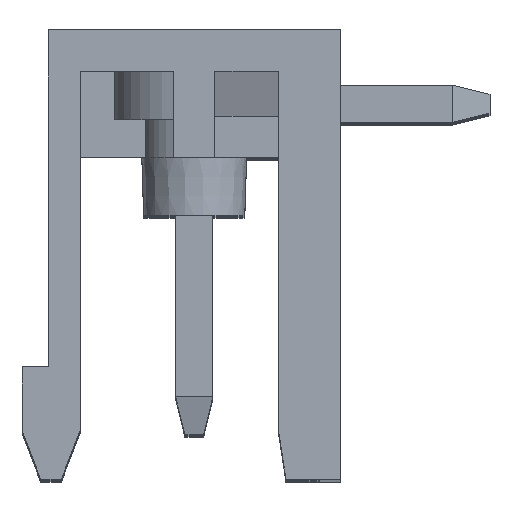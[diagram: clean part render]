
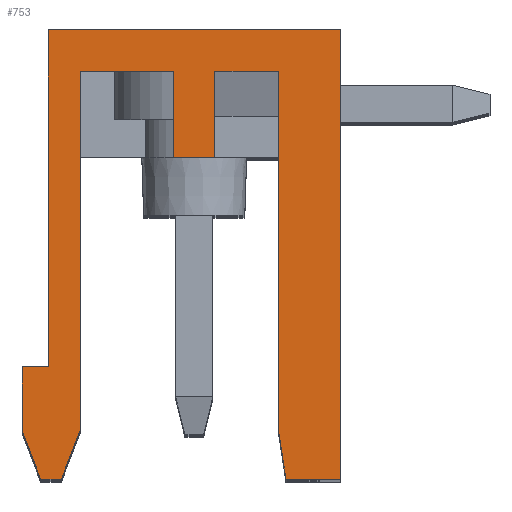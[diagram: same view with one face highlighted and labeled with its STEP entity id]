
A CAD part, top view. The second image highlights one B-rep face of the part: STEP entity #753.
In plain terms, the highlighted planar face has unit normal (0, 0, 1).
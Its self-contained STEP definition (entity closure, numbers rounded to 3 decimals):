
#573 = CARTESIAN_POINT ( 'NONE',  ( 3.9, 12., 45.72 ) ) ;
#640 = DIRECTION ( 'NONE',  ( -1., 0., 0. ) ) ;
#753 = ADVANCED_FACE ( 'NONE', ( #20613 ), #6574, .T. ) ;
#763 = CARTESIAN_POINT ( 'NONE',  ( 0.55, 8.6, 45.72 ) ) ;
#788 = AXIS2_PLACEMENT_3D ( 'NONE', #6680, #8195, #3113 ) ;
#1002 = ORIENTED_EDGE ( 'NONE', *, *, #13742, .T. ) ;
#1044 = LINE ( 'NONE', #10138, #19613 ) ;
#1284 = CARTESIAN_POINT ( 'NONE',  ( -3.9, 3., 45.72 ) ) ;
#1365 = DIRECTION ( 'NONE',  ( 0., 1., 0. ) ) ;
#1467 = LINE ( 'NONE', #12292, #20662 ) ;
#1733 = CARTESIAN_POINT ( 'NONE',  ( -3.9, 12., 45.72 ) ) ;
#2181 = EDGE_CURVE ( 'NONE', #21078, #20366, #6928, .T. ) ;
#2198 = CARTESIAN_POINT ( 'NONE',  ( -4.6, 3., 45.72 ) ) ;
#2212 = ORIENTED_EDGE ( 'NONE', *, *, #14559, .F. ) ;
#2297 = VECTOR ( 'NONE', #12467, 1000. ) ;
#2477 = VECTOR ( 'NONE', #17821, 1000. ) ;
#2493 = EDGE_CURVE ( 'NONE', #8814, #7723, #1044, .T. ) ;
#2508 = ORIENTED_EDGE ( 'NONE', *, *, #3390, .T. ) ;
#2885 = LINE ( 'NONE', #4502, #18593 ) ;
#3113 = DIRECTION ( 'NONE',  ( 1., 0., 0. ) ) ;
#3230 = DIRECTION ( 'NONE',  ( -1., 0., 0. ) ) ;
#3365 = LINE ( 'NONE', #4985, #14814 ) ;
#3390 = EDGE_CURVE ( 'NONE', #4800, #20701, #10415, .T. ) ;
#3824 = VECTOR ( 'NONE', #9478, 1000. ) ;
#3942 = CARTESIAN_POINT ( 'NONE',  ( -3.05, 10.9, 45.72 ) ) ;
#4364 = CARTESIAN_POINT ( 'NONE',  ( 0.55, 10.9, 45.72 ) ) ;
#4502 = CARTESIAN_POINT ( 'NONE',  ( -3.9, 12., 45.72 ) ) ;
#4703 = CARTESIAN_POINT ( 'NONE',  ( -3.55, 0., 45.72 ) ) ;
#4800 = VERTEX_POINT ( 'NONE', #2198 ) ;
#4985 = CARTESIAN_POINT ( 'NONE',  ( 0.55, 10.9, 45.72 ) ) ;
#5169 = ORIENTED_EDGE ( 'NONE', *, *, #5403, .F. ) ;
#5381 = CARTESIAN_POINT ( 'NONE',  ( 3.9, 0., 45.72 ) ) ;
#5403 = EDGE_CURVE ( 'NONE', #12705, #8814, #17792, .T. ) ;
#5443 = CARTESIAN_POINT ( 'NONE',  ( 2.25, 1.3, 45.72 ) ) ;
#5498 = VECTOR ( 'NONE', #640, 1000. ) ;
#5812 = CARTESIAN_POINT ( 'NONE',  ( -0.55, 10.9, 45.72 ) ) ;
#5916 = EDGE_CURVE ( 'NONE', #6182, #13100, #10122, .T. ) ;
#6082 = EDGE_LOOP ( 'NONE', ( #9319, #1002, #11790, #10072, #2508, #13442, #8843, #2212, #21891, #5169, #18767, #6888, #10461, #21741, #11195, #6220, #19940 ) ) ;
#6120 = CARTESIAN_POINT ( 'NONE',  ( -0.55, 10.9, 45.72 ) ) ;
#6182 = VERTEX_POINT ( 'NONE', #763 ) ;
#6220 = ORIENTED_EDGE ( 'NONE', *, *, #7942, .T. ) ;
#6314 = VECTOR ( 'NONE', #19741, 1000. ) ;
#6446 = CARTESIAN_POINT ( 'NONE',  ( 0.55, 8.6, 45.72 ) ) ;
#6574 = PLANE ( 'NONE',  #788 ) ;
#6655 = EDGE_CURVE ( 'NONE', #13100, #22185, #3365, .T. ) ;
#6680 = CARTESIAN_POINT ( 'NONE',  ( -10.2, 16.267, 45.72 ) ) ;
#6888 = ORIENTED_EDGE ( 'NONE', *, *, #18595, .F. ) ;
#6928 = LINE ( 'NONE', #10721, #8220 ) ;
#7003 = VERTEX_POINT ( 'NONE', #8086 ) ;
#7004 = EDGE_CURVE ( 'NONE', #12333, #20621, #15221, .T. ) ;
#7116 = EDGE_CURVE ( 'NONE', #12271, #4800, #19014, .T. ) ;
#7272 = LINE ( 'NONE', #19131, #17298 ) ;
#7593 = CARTESIAN_POINT ( 'NONE',  ( 3.9, 0., 45.72 ) ) ;
#7653 = CARTESIAN_POINT ( 'NONE',  ( -4.1, 0., 45.72 ) ) ;
#7723 = VERTEX_POINT ( 'NONE', #8117 ) ;
#7786 = LINE ( 'NONE', #20214, #5498 ) ;
#7942 = EDGE_CURVE ( 'NONE', #7003, #21078, #12702, .T. ) ;
#8086 = CARTESIAN_POINT ( 'NONE',  ( 2.25, 1.3, 45.72 ) ) ;
#8117 = CARTESIAN_POINT ( 'NONE',  ( -3.05, 1.3, 45.72 ) ) ;
#8195 = DIRECTION ( 'NONE',  ( 0., 0., 1. ) ) ;
#8220 = VECTOR ( 'NONE', #8769, 1000. ) ;
#8502 = VERTEX_POINT ( 'NONE', #9444 ) ;
#8561 = VECTOR ( 'NONE', #3230, 1000. ) ;
#8769 = DIRECTION ( 'NONE',  ( 1., 0., 0. ) ) ;
#8814 = VERTEX_POINT ( 'NONE', #3942 ) ;
#8843 = ORIENTED_EDGE ( 'NONE', *, *, #7004, .T. ) ;
#8939 = VECTOR ( 'NONE', #11197, 1000. ) ;
#9319 = ORIENTED_EDGE ( 'NONE', *, *, #13405, .T. ) ;
#9444 = CARTESIAN_POINT ( 'NONE',  ( -0.55, 8.6, 45.72 ) ) ;
#9478 = DIRECTION ( 'NONE',  ( -0.359, 0.933, 0. ) ) ;
#9731 = CARTESIAN_POINT ( 'NONE',  ( -3.9, 3., 45.72 ) ) ;
#9932 = EDGE_CURVE ( 'NONE', #12333, #20701, #12595, .T. ) ;
#10072 = ORIENTED_EDGE ( 'NONE', *, *, #7116, .T. ) ;
#10122 = LINE ( 'NONE', #6446, #20304 ) ;
#10126 = LINE ( 'NONE', #20720, #16065 ) ;
#10138 = CARTESIAN_POINT ( 'NONE',  ( -3.05, 10.9, 45.72 ) ) ;
#10415 = LINE ( 'NONE', #20894, #15530 ) ;
#10461 = ORIENTED_EDGE ( 'NONE', *, *, #5916, .T. ) ;
#10721 = CARTESIAN_POINT ( 'NONE',  ( 2.45, 0., 45.72 ) ) ;
#11076 = CARTESIAN_POINT ( 'NONE',  ( 3.9, 12., 45.72 ) ) ;
#11195 = ORIENTED_EDGE ( 'NONE', *, *, #19235, .T. ) ;
#11197 = DIRECTION ( 'NONE',  ( 1., 0., 0. ) ) ;
#11596 = EDGE_CURVE ( 'NONE', #14152, #12271, #2885, .T. ) ;
#11790 = ORIENTED_EDGE ( 'NONE', *, *, #11596, .T. ) ;
#11955 = DIRECTION ( 'NONE',  ( 0., -1., 0. ) ) ;
#12108 = DIRECTION ( 'NONE',  ( 0., -1., 0. ) ) ;
#12271 = VERTEX_POINT ( 'NONE', #9731 ) ;
#12292 = CARTESIAN_POINT ( 'NONE',  ( -0.55, 10.9, 45.72 ) ) ;
#12333 = VERTEX_POINT ( 'NONE', #7653 ) ;
#12467 = DIRECTION ( 'NONE',  ( 0.152, -0.988, 0. ) ) ;
#12595 = LINE ( 'NONE', #21464, #3824 ) ;
#12702 = LINE ( 'NONE', #5443, #2297 ) ;
#12705 = VERTEX_POINT ( 'NONE', #6120 ) ;
#13100 = VERTEX_POINT ( 'NONE', #4364 ) ;
#13405 = EDGE_CURVE ( 'NONE', #20366, #16495, #17474, .T. ) ;
#13442 = ORIENTED_EDGE ( 'NONE', *, *, #9932, .F. ) ;
#13742 = EDGE_CURVE ( 'NONE', #16495, #14152, #17664, .T. ) ;
#14113 = DIRECTION ( 'NONE',  ( -1., 0., 0. ) ) ;
#14152 = VERTEX_POINT ( 'NONE', #1733 ) ;
#14559 = EDGE_CURVE ( 'NONE', #7723, #20621, #10126, .T. ) ;
#14814 = VECTOR ( 'NONE', #22385, 1000. ) ;
#15100 = CARTESIAN_POINT ( 'NONE',  ( -4.1, 0., 45.72 ) ) ;
#15221 = LINE ( 'NONE', #15100, #8939 ) ;
#15530 = VECTOR ( 'NONE', #20557, 1000. ) ;
#16065 = VECTOR ( 'NONE', #19664, 1000. ) ;
#16495 = VERTEX_POINT ( 'NONE', #573 ) ;
#16777 = CARTESIAN_POINT ( 'NONE',  ( 2.25, 10.9, 45.72 ) ) ;
#17157 = VECTOR ( 'NONE', #14113, 1000. ) ;
#17298 = VECTOR ( 'NONE', #12108, 1000. ) ;
#17474 = LINE ( 'NONE', #5381, #2477 ) ;
#17664 = LINE ( 'NONE', #11076, #17157 ) ;
#17792 = LINE ( 'NONE', #5812, #6314 ) ;
#17821 = DIRECTION ( 'NONE',  ( 0., 1., 0. ) ) ;
#18593 = VECTOR ( 'NONE', #21894, 1000. ) ;
#18595 = EDGE_CURVE ( 'NONE', #6182, #8502, #7786, .T. ) ;
#18767 = ORIENTED_EDGE ( 'NONE', *, *, #21815, .T. ) ;
#19014 = LINE ( 'NONE', #1284, #8561 ) ;
#19032 = CARTESIAN_POINT ( 'NONE',  ( 2.45, 0., 45.72 ) ) ;
#19131 = CARTESIAN_POINT ( 'NONE',  ( 2.25, 10.9, 45.72 ) ) ;
#19235 = EDGE_CURVE ( 'NONE', #22185, #7003, #7272, .T. ) ;
#19613 = VECTOR ( 'NONE', #20398, 1000. ) ;
#19664 = DIRECTION ( 'NONE',  ( -0.359, -0.933, 0. ) ) ;
#19741 = DIRECTION ( 'NONE',  ( -1., 0., 0. ) ) ;
#19940 = ORIENTED_EDGE ( 'NONE', *, *, #2181, .T. ) ;
#20214 = CARTESIAN_POINT ( 'NONE',  ( 0.55, 8.6, 45.72 ) ) ;
#20304 = VECTOR ( 'NONE', #1365, 1000. ) ;
#20366 = VERTEX_POINT ( 'NONE', #7593 ) ;
#20398 = DIRECTION ( 'NONE',  ( 0., -1., 0. ) ) ;
#20557 = DIRECTION ( 'NONE',  ( 0., -1., 0. ) ) ;
#20613 = FACE_OUTER_BOUND ( 'NONE', #6082, .T. ) ;
#20621 = VERTEX_POINT ( 'NONE', #4703 ) ;
#20662 = VECTOR ( 'NONE', #11955, 1000. ) ;
#20701 = VERTEX_POINT ( 'NONE', #22656 ) ;
#20720 = CARTESIAN_POINT ( 'NONE',  ( -3.05, 1.3, 45.72 ) ) ;
#20894 = CARTESIAN_POINT ( 'NONE',  ( -4.6, 3., 45.72 ) ) ;
#21078 = VERTEX_POINT ( 'NONE', #19032 ) ;
#21464 = CARTESIAN_POINT ( 'NONE',  ( -4.1, 0., 45.72 ) ) ;
#21741 = ORIENTED_EDGE ( 'NONE', *, *, #6655, .T. ) ;
#21815 = EDGE_CURVE ( 'NONE', #12705, #8502, #1467, .T. ) ;
#21891 = ORIENTED_EDGE ( 'NONE', *, *, #2493, .F. ) ;
#21894 = DIRECTION ( 'NONE',  ( 0., -1., 0. ) ) ;
#22185 = VERTEX_POINT ( 'NONE', #16777 ) ;
#22385 = DIRECTION ( 'NONE',  ( 1., 0., 0. ) ) ;
#22656 = CARTESIAN_POINT ( 'NONE',  ( -4.6, 1.3, 45.72 ) ) ;
